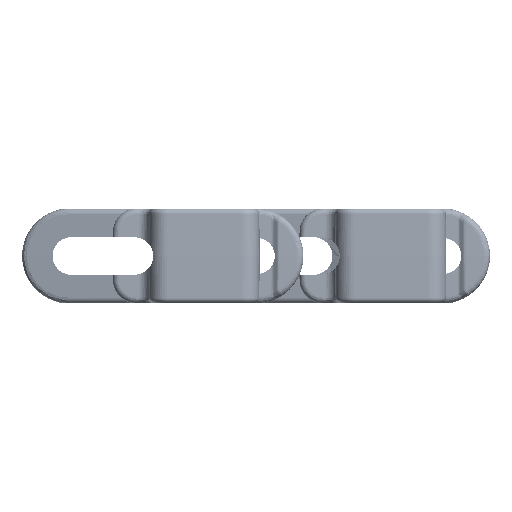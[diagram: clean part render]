
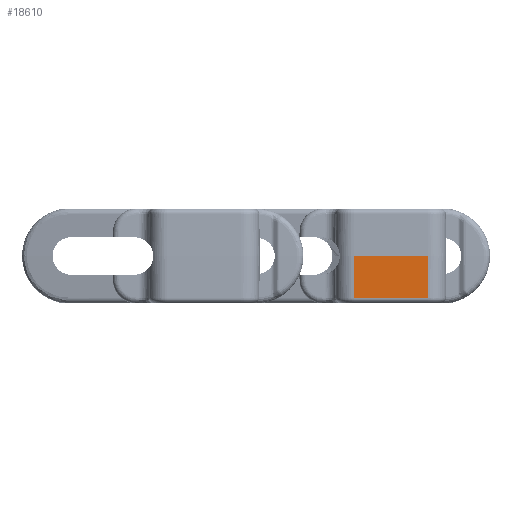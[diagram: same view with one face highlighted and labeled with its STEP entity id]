
A CAD part, left-side view. The second image highlights one B-rep face of the part: STEP entity #18610.
In plain terms, the highlighted planar face has unit normal (-1, 0, -0.009).
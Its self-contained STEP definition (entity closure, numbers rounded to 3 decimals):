
#18610=ADVANCED_FACE('',(#25144),#20126,.F.);
#20126=PLANE('',#95513);
#25144=FACE_OUTER_BOUND('',#30687,.T.);
#30687=EDGE_LOOP('',(#55129,#55130,#55131,#55132));
#55129=ORIENTED_EDGE('',*,*,#78109,.F.);
#55130=ORIENTED_EDGE('',*,*,#78027,.T.);
#55131=ORIENTED_EDGE('',*,*,#78108,.F.);
#55132=ORIENTED_EDGE('',*,*,#78110,.F.);
#65314=VERTEX_POINT('',#201607);
#65315=VERTEX_POINT('',#201611);
#65353=VERTEX_POINT('',#202393);
#65354=VERTEX_POINT('',#202399);
#78027=EDGE_CURVE('',#65315,#65314,#83512,.T.);
#78108=EDGE_CURVE('',#65353,#65314,#83541,.T.);
#78109=EDGE_CURVE('',#65315,#65354,#83542,.T.);
#78110=EDGE_CURVE('',#65354,#65353,#83543,.T.);
#83512=LINE('',#201610,#88512);
#83541=LINE('',#202396,#88541);
#83542=LINE('',#202398,#88542);
#83543=LINE('',#202400,#88543);
#88512=VECTOR('',#113778,1.);
#88541=VECTOR('',#113923,1.);
#88542=VECTOR('',#113926,1.);
#88543=VECTOR('',#113927,1.);
#95513=AXIS2_PLACEMENT_3D('',#202401,#113928,#113929);
#113778=DIRECTION('',(0.,-1.,0.));
#113923=DIRECTION('',(0.009,0.011,-1.));
#113926=DIRECTION('',(-0.009,0.009,1.));
#113927=DIRECTION('',(0.,-1.,0.));
#113928=DIRECTION('',(1.,0.,0.009));
#113929=DIRECTION('',(0.,1.,0.));
#201607=CARTESIAN_POINT('',(-119.669,-28.459,-5.657));
#201610=CARTESIAN_POINT('',(-119.669,-18.449,-5.657));
#201611=CARTESIAN_POINT('',(-119.669,-18.449,-5.657));
#202393=CARTESIAN_POINT('',(-119.719,-28.522,0.));
#202396=CARTESIAN_POINT('',(-119.719,-28.522,0.));
#202398=CARTESIAN_POINT('',(-119.669,-18.449,-5.657));
#202399=CARTESIAN_POINT('',(-119.719,-18.4,0.));
#202400=CARTESIAN_POINT('',(-119.719,-18.4,0.));
#202401=CARTESIAN_POINT('',(-119.719,-13.323,0.));
